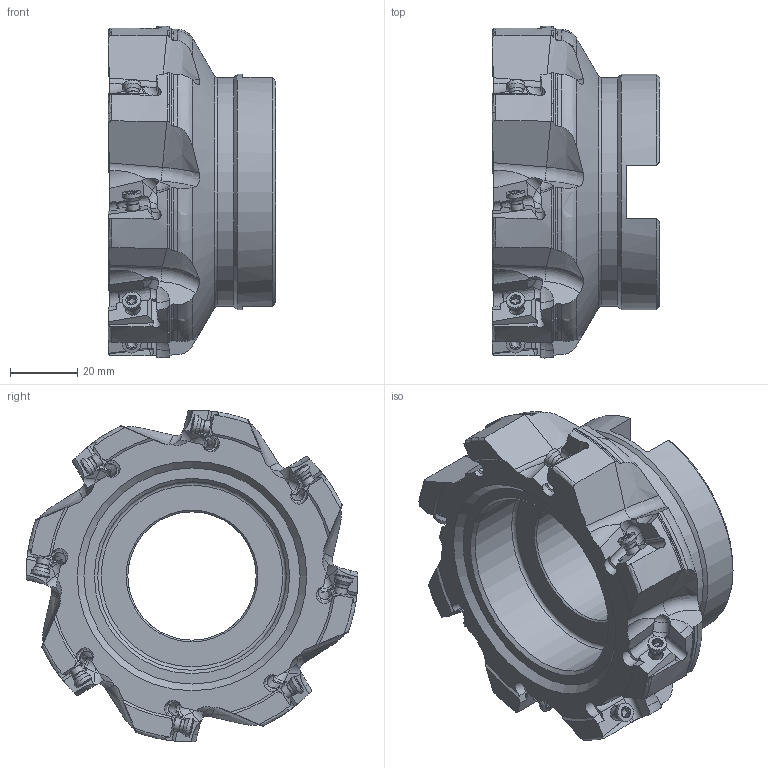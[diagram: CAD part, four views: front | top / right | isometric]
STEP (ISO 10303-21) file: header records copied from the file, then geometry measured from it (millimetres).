
FILE_DESCRIPTION(/* description */ (''),/* implementation_level */ '2;1');
FILE_NAME(/* name */ 'emp13-4.00''''-b1.50''''-an15-08.stp',/* time_stamp */ '2020-03-23T11:17:17+08:00',/* author */ (''),/* organization */ (''),/* preprocessor_version */ 'ST-DEVELOPER v11',/* originating_system */ 'UGS - NX 5.0',/* authorisation */ '');
FILE_SCHEMA (('AUTOMOTIVE_DESIGN { 1 0 10303 214 1 1 1 1 }'));
Length unit declared in the file: millimetre
Products named in the file (1): zhanDF31mmda
Bounding box: 49.8 x 98.6 x 98.6 mm (x, y, z)
Volume: 164154.9 mm3; surface area: 34647.9 mm2
Topology: 9 solids, 9 shells, 663 faces, 1767 edges, 1107 vertices
Faces by surface type: plane 241, cylinder 240, cone 90, torus 52, sphere 24, bspline 8, extrusion 8
Full cylindrical faces by diameter (mm): 3.432 x8, 3.7 x8, 3.838 x8, 5.5 x8, 38.1 x1, 56 x1, 68 x1, 70 x1
Entity records: 22586 total; most frequent: CARTESIAN_POINT 6851, DIRECTION 3402, ORIENTED_EDGE 3194, EDGE_CURVE 1597, AXIS2_PLACEMENT_3D 1517, VERTEX_POINT 1069, EDGE_LOOP 766, CIRCLE 709
